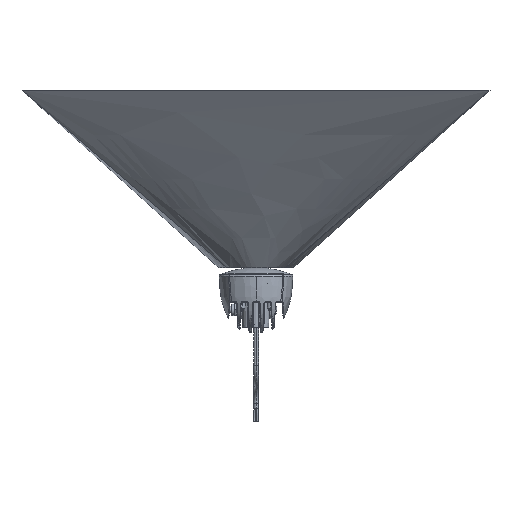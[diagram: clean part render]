
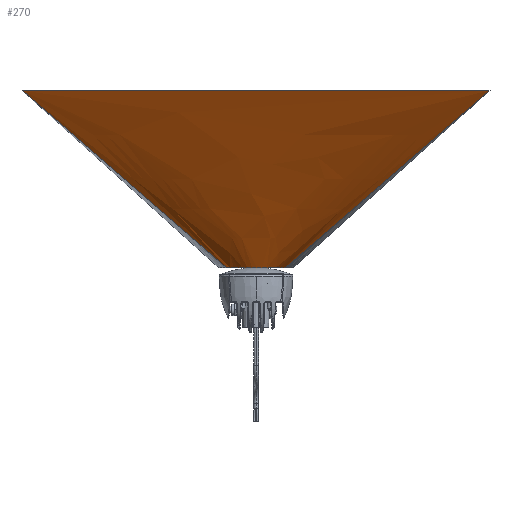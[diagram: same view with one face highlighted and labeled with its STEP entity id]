
A CAD part, front view. The second image highlights one B-rep face of the part: STEP entity #270.
In plain terms, the highlighted free-form (B-spline) face has degree [5, 1] with [9, 2] control points.
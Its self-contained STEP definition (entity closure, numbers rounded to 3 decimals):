
#191=CARTESIAN_POINT('Vertex',(32.957,-4.911,88.882)) ;
#201=CARTESIAN_POINT('Vertex',(263.968,-171.783,288.884)) ;
#205=CARTESIAN_POINT('Control Point',(32.957,-4.911,88.882)) ;
#206=CARTESIAN_POINT('Control Point',(263.968,-171.783,288.884)) ;
#216=CARTESIAN_POINT('Control Point',(-33.267,-4.911,88.882)) ;
#217=CARTESIAN_POINT('Control Point',(-264.277,-171.783,288.884)) ;
#218=CARTESIAN_POINT('Control Point',(-28.573,-10.926,88.883)) ;
#219=CARTESIAN_POINT('Control Point',(-211.445,-171.783,288.884)) ;
#220=CARTESIAN_POINT('Control Point',(-22.513,-15.875,88.883)) ;
#221=CARTESIAN_POINT('Control Point',(-158.612,-171.783,288.884)) ;
#222=CARTESIAN_POINT('Control Point',(-15.415,-19.34,88.883)) ;
#223=CARTESIAN_POINT('Control Point',(-105.82,-171.783,288.884)) ;
#224=CARTESIAN_POINT('Control Point',(-0.155,-22.806,88.883)) ;
#225=CARTESIAN_POINT('Control Point',(-0.155,-171.783,288.884)) ;
#226=CARTESIAN_POINT('Control Point',(15.105,-19.34,88.883)) ;
#227=CARTESIAN_POINT('Control Point',(105.51,-171.783,288.884)) ;
#228=CARTESIAN_POINT('Control Point',(22.204,-15.875,88.883)) ;
#229=CARTESIAN_POINT('Control Point',(158.302,-171.783,288.884)) ;
#230=CARTESIAN_POINT('Control Point',(28.263,-10.926,88.883)) ;
#231=CARTESIAN_POINT('Control Point',(211.135,-171.783,288.884)) ;
#232=CARTESIAN_POINT('Control Point',(32.957,-4.911,88.882)) ;
#233=CARTESIAN_POINT('Control Point',(263.968,-171.783,288.884)) ;
#235=CARTESIAN_POINT('Control Point',(-33.267,-4.911,88.882)) ;
#236=CARTESIAN_POINT('Control Point',(-28.573,-10.926,88.883)) ;
#237=CARTESIAN_POINT('Control Point',(-22.513,-15.875,88.883)) ;
#238=CARTESIAN_POINT('Control Point',(-15.415,-19.34,88.883)) ;
#239=CARTESIAN_POINT('Control Point',(-0.155,-22.806,88.883)) ;
#240=CARTESIAN_POINT('Control Point',(15.105,-19.34,88.883)) ;
#241=CARTESIAN_POINT('Control Point',(22.204,-15.875,88.883)) ;
#242=CARTESIAN_POINT('Control Point',(28.263,-10.926,88.883)) ;
#243=CARTESIAN_POINT('Control Point',(32.957,-4.911,88.882)) ;
#244=CARTESIAN_POINT('Vertex',(-33.267,-4.911,88.882)) ;
#248=CARTESIAN_POINT('Control Point',(-264.277,-171.783,288.884)) ;
#249=CARTESIAN_POINT('Control Point',(-211.445,-171.783,288.884)) ;
#250=CARTESIAN_POINT('Control Point',(-158.612,-171.783,288.884)) ;
#251=CARTESIAN_POINT('Control Point',(-105.82,-171.783,288.884)) ;
#252=CARTESIAN_POINT('Control Point',(-0.155,-171.783,288.884)) ;
#253=CARTESIAN_POINT('Control Point',(105.51,-171.783,288.884)) ;
#254=CARTESIAN_POINT('Control Point',(158.302,-171.783,288.884)) ;
#255=CARTESIAN_POINT('Control Point',(211.135,-171.783,288.884)) ;
#256=CARTESIAN_POINT('Control Point',(263.968,-171.783,288.884)) ;
#257=CARTESIAN_POINT('Vertex',(-264.277,-171.783,288.884)) ;
#261=CARTESIAN_POINT('Control Point',(-33.267,-4.911,88.882)) ;
#262=CARTESIAN_POINT('Control Point',(-264.277,-171.783,288.884)) ;
#265=ORIENTED_EDGE('',*,*,#246,.T.) ;
#266=ORIENTED_EDGE('',*,*,#207,.T.) ;
#267=ORIENTED_EDGE('',*,*,#259,.F.) ;
#268=ORIENTED_EDGE('',*,*,#263,.F.) ;
#270=ADVANCED_FACE('Surface.83',(#269),#215,.T.) ;
#204=B_SPLINE_CURVE_WITH_KNOTS('',1,(#205,#206),.UNSPECIFIED.,.F.,.U.,(2,2),(0.,348.156),.UNSPECIFIED.) ;
#234=B_SPLINE_CURVE_WITH_KNOTS('',5,(#235,#236,#237,#238,#239,#240,#241,#242,#243),.UNSPECIFIED.,.F.,.U.,(6,3,6),(0.,188.729,377.459),.UNSPECIFIED.) ;
#247=B_SPLINE_CURVE_WITH_KNOTS('',5,(#248,#249,#250,#251,#252,#253,#254,#255,#256),.UNSPECIFIED.,.F.,.U.,(6,3,6),(0.,188.729,377.459),.UNSPECIFIED.) ;
#260=B_SPLINE_CURVE_WITH_KNOTS('',1,(#261,#262),.UNSPECIFIED.,.F.,.U.,(2,2),(0.,348.156),.UNSPECIFIED.) ;
#215=B_SPLINE_SURFACE_WITH_KNOTS('',5,1,((#216,#217),(#218,#219),(#220,#221),(#222,#223),(#224,#225),(#226,#227),(#228,#229),(#230,#231),(#232,#233)),.UNSPECIFIED.,.F.,.F.,.U.,(6,3,6),(2,2),(0.,188.729,377.459),(0.,348.156),.UNSPECIFIED.) ;
#207=EDGE_CURVE('',#192,#202,#204,.T.) ;
#246=EDGE_CURVE('',#245,#192,#234,.T.) ;
#259=EDGE_CURVE('',#258,#202,#247,.T.) ;
#263=EDGE_CURVE('',#245,#258,#260,.T.) ;
#264=EDGE_LOOP('',(#265,#266,#267,#268)) ;
#269=FACE_OUTER_BOUND('',#264,.T.) ;
#192=VERTEX_POINT('',#191) ;
#202=VERTEX_POINT('',#201) ;
#245=VERTEX_POINT('',#244) ;
#258=VERTEX_POINT('',#257) ;
